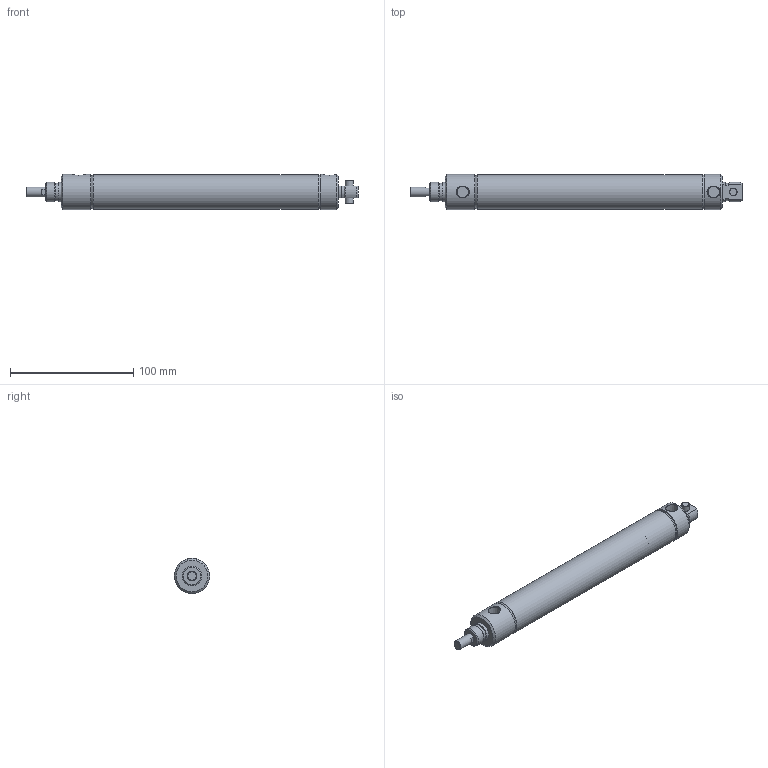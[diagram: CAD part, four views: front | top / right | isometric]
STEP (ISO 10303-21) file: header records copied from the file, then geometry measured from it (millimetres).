
FILE_DESCRIPTION( ( 'STEP AP214' ), '1' );
FILE_NAME( 'p:/temp/worker_444/temp/exporttempdir_5668_113_A5DpD/format_0/1062D02-06A-03.stp', '2020-05-07T16:44:47', ( 'License CC BY-ND 4.0' ), ( 'CADENAS' ), ' ', 'PARTsolutions', ' ' );
FILE_SCHEMA( ( 'AUTOMOTIVE_DESIGN { 1 0 10303 214 1 1 1 1 }' ) );
Length unit declared in the file: inch
Products named in the file (3): 1062D02-06A-03; _1062D02-06A-031062D02-06A-0300A00A0b; _1062D02-06A-031062D02-06A-0300A00A0r
Assembly tree (2 placements, depth 2):
  1062D02-06A-03
    _1062D02-06A-031062D02-06A-0300A00A0b
    _1062D02-06A-031062D02-06A-0300A00A0r
Bounding box: 269.88 x 28.57 x 28.57 mm (x, y, z)
Volume: 67296.6 mm3; surface area: 50064.1 mm2
Topology: 2 solids, 2 shells, 65 faces, 129 edges, 83 vertices
Faces by surface type: plane 27, cone 19, cylinder 19
Full cylindrical faces by diameter (mm): 6.35 x2, 7.95 x3, 14.196 x1, 15.85 x1, 15.875 x1, 26.987 x2, 28.397 x1, 28.575 x2
Entity records: 2276 total; most frequent: CARTESIAN_POINT 442, DIRECTION 280, ORIENTED_EDGE 204, AXIS2_PLACEMENT_3D 126, EDGE_LOOP 104, EDGE_CURVE 102, VERTEX_POINT 80, FACE_OUTER_BOUND 78
